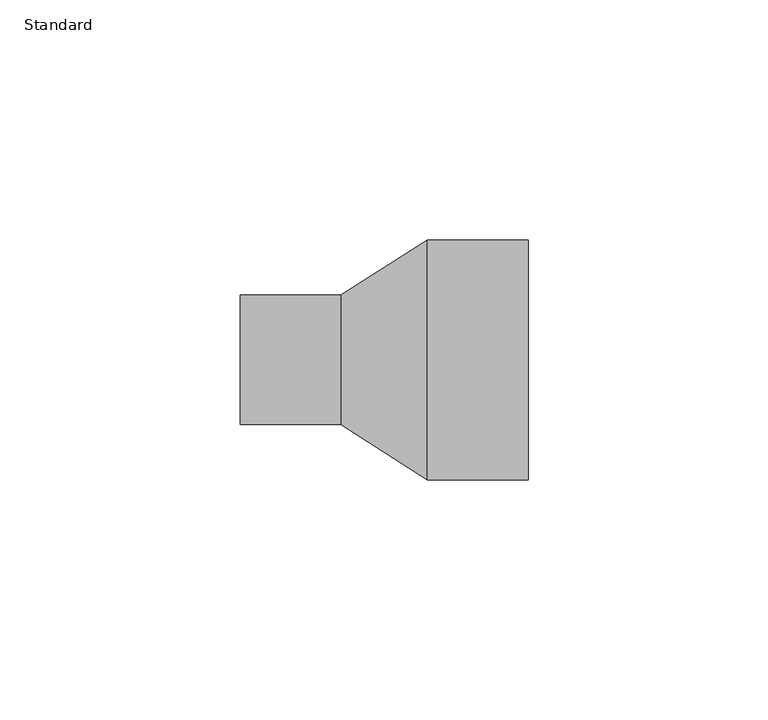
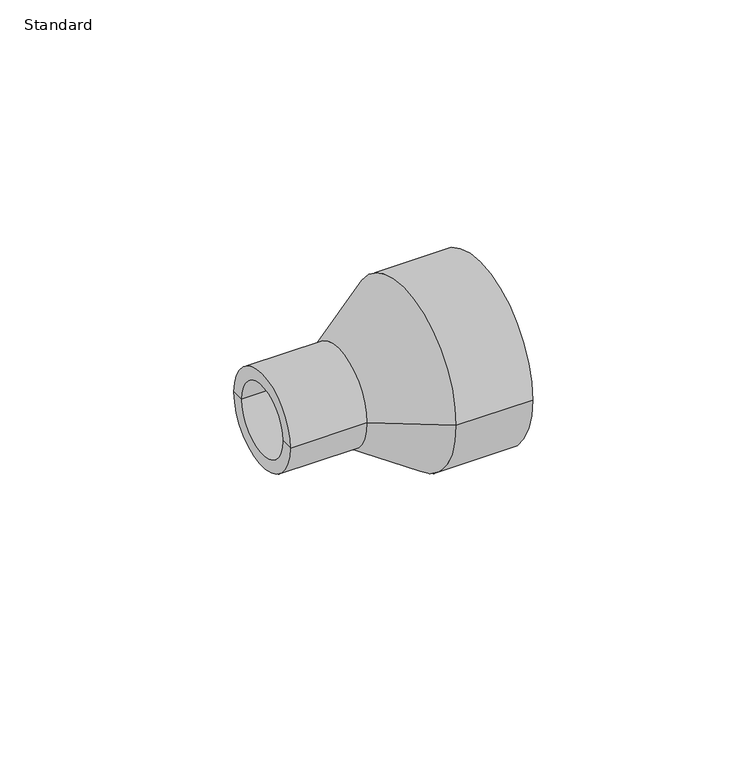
"""IFC4 building model written with IfcOpenShell, lengths in millimetres: pipe fitting geometry, Durapipe_PipeFitting_PVC_Reducers : Standard."""

from ifc_helpers import new_model, si_unit, frame, origin, place, context, project, spatial, polyline, circle_curve, source, transform, mapped, element, save
from ifc_brep_helpers import plane_surface, cylinder_surface, revolved_surface, advanced_brep


def standard_dfcddfa7(model_context):
    return source(origin(), model_context, "Body", "AdvancedBrep", [
        advanced_brep(
        [(-30.0, -13.5, 0.0), (-30.0, 13.5, 0.0), (-9.0, 13.5, 0.0), (-9.0, -13.5, 0.0), (-30.0, -10.0, 0.0), (-30.0, 10.0, 0.0), (30.0, -25.0, 0.0), (30.0, 25.0, 0.0), (30.0, 20.0, 0.0), (30.0, -20.0, 0.0), (9.0, -25.0, 0.0), (9.0, 25.0, 0.0), (-9.0, -10.0, 0.0), (-9.0, 10.0, 0.0), (-9.0, 0.0, 0.0), (9.0, -20.0, 0.0), (9.0, 20.0, 0.0), (9.0, 0.0, 0.0)],
        [
            (0, 1, circle_curve(frame((-30.0, 0.0, 0.0), z_axis=(1.0, 0.0, 0.0), x_axis=(0.0, 1.0, 0.0)), 13.5)),
            (1, 2),
            (2, 3, circle_curve(frame((-9.0, 0.0, 0.0), z_axis=(-1.0, 0.0, 0.0), x_axis=(0.0, 1.0, 0.0)), 13.5)),
            (3, 0),
            (1, 0, circle_curve(frame((-30.0, 0.0, 0.0), z_axis=(1.0, 0.0, 0.0), x_axis=(0.0, 1.0, 0.0)), 13.5)),
            (3, 2, circle_curve(frame((-9.0, 0.0, 0.0), z_axis=(-1.0, 0.0, 0.0), x_axis=(0.0, 1.0, 0.0)), 13.5)),
            (4, 5, circle_curve(frame((-30.0, 0.0, 0.0), z_axis=(1.0, 0.0, 0.0), x_axis=(0.0, 1.0, 0.0)), 10.0)),
            (5, 1),
            (0, 4),
            (5, 4, circle_curve(frame((-30.0, 0.0, 0.0), z_axis=(1.0, 0.0, 0.0), x_axis=(0.0, 1.0, 0.0)), 10.0)),
            (6, 7, circle_curve(frame((30.0, 0.0, 0.0), z_axis=(1.0, 0.0, 0.0), x_axis=(0.0, 1.0, 0.0)), 25.0)),
            (7, 8),
            (8, 9, circle_curve(frame((30.0, 0.0, 0.0), z_axis=(-1.0, 0.0, 0.0), x_axis=(0.0, 1.0, 0.0)), 20.0)),
            (9, 6),
            (7, 6, circle_curve(frame((30.0, 0.0, 0.0), z_axis=(1.0, 0.0, 0.0), x_axis=(0.0, 1.0, 0.0)), 25.0)),
            (9, 8, circle_curve(frame((30.0, 0.0, 0.0), z_axis=(-1.0, 0.0, 0.0), x_axis=(0.0, 1.0, 0.0)), 20.0)),
            (10, 11, circle_curve(frame((9.0, 0.0, 0.0), z_axis=(1.0, 0.0, 0.0), x_axis=(0.0, 1.0, 0.0)), 25.0)),
            (11, 7),
            (6, 10),
            (11, 10, circle_curve(frame((9.0, 0.0, 0.0), z_axis=(1.0, 0.0, 0.0), x_axis=(0.0, 1.0, 0.0)), 25.0)),
            (2, 11),
            (10, 3),
            (12, 13, circle_curve(frame((-9.0, 0.0, 0.0), z_axis=(1.0, 0.0, 0.0), x_axis=(0.0, 1.0, 0.0)), 10.0)),
            (13, 5),
            (4, 12),
            (13, 12, circle_curve(frame((-9.0, 0.0, 0.0), z_axis=(1.0, 0.0, 0.0), x_axis=(0.0, 1.0, 0.0)), 10.0)),
            (14, 13),
            (12, 14),
            (15, 16, circle_curve(frame((9.0, 0.0, 0.0), z_axis=(1.0, 0.0, 0.0), x_axis=(0.0, 1.0, 0.0)), 20.0)),
            (16, 17),
            (17, 15),
            (16, 15, circle_curve(frame((9.0, 0.0, 0.0), z_axis=(1.0, 0.0, 0.0), x_axis=(0.0, 1.0, 0.0)), 20.0)),
            (8, 16),
            (15, 9),
        ],
        [
            cylinder_surface(frame((-30.0, 0.0, 0.0), z_axis=(-1.0, 0.0, 0.0), x_axis=(0.0, 1.0, 0.0)), 13.5),
            plane_surface(frame((-30.0, 0.0, 0.0), z_axis=(-1.0, 0.0, 0.0), x_axis=(0.0, 1.0, 0.0))),
            plane_surface(frame((30.0, 0.0, 0.0), z_axis=(1.0, 0.0, 0.0), x_axis=(0.0, 1.0, 0.0))),
            cylinder_surface(frame((-30.0, 0.0, 0.0), z_axis=(-1.0, 0.0, 0.0), x_axis=(0.0, 1.0, 0.0)), 25.0),
            revolved_surface(polyline([(9.0, 25.0, 0.0), (-9.0, 13.5, 0.0)]), (-30.0, 0.0, 0.0), (-1.0, 0.0, 0.0)),
            revolved_surface(polyline([(-30.0, 10.0, 0.0), (-9.0, 10.0, 0.0)]), (-30.0, 0.0, 0.0), (-1.0, 0.0, 0.0)),
            plane_surface(frame((-9.0, 0.0, 0.0), z_axis=(-1.0, 0.0, 0.0), x_axis=(0.0, 1.0, 0.0))),
            plane_surface(frame((9.0, 0.0, 0.0), z_axis=(1.0, 0.0, 0.0), x_axis=(0.0, 1.0, 0.0))),
            revolved_surface(polyline([(9.0, 20.0, 0.0), (30.0, 20.0, 0.0)]), (-30.0, 0.0, 0.0), (-1.0, 0.0, 0.0)),
        ],
        [
            (0, [[1, 2, 3, 4]]),
            (0, [[5, -4, 6, -2]]),
            (1, [[7, 8, -1, 9]]),
            (1, [[10, -9, -5, -8]]),
            (2, [[11, 12, 13, 14]]),
            (2, [[15, -14, 16, -12]]),
            (3, [[17, 18, -11, 19]]),
            (3, [[20, -19, -15, -18]]),
            (4, [[-3, 21, -17, 22]]),
            (4, [[-6, -22, -20, -21]]),
            (5, [[23, 24, -7, 25]]),
            (5, [[26, -25, -10, -24]]),
            (6, [[27, -23, 28]]),
            (6, [[-28, -26, -27]]),
            (7, [[29, 30, 31]]),
            (7, [[32, -31, -30]]),
            (8, [[-13, 33, -29, 34]]),
            (8, [[-16, -34, -32, -33]]),
        ],
    ),
    ])


if __name__ == "__main__":
    model = new_model("IFC4")
    model_context = context("Model", 3, world=origin())
    ifc_project = project(units=[si_unit("LENGTHUNIT", "METRE", prefix="MILLI")], contexts=[model_context])
    site = spatial("IfcSite", under=ifc_project)
    building = spatial("IfcBuilding", under=site)
    placement = place(None, origin())
    standard_shape = standard_dfcddfa7(model_context)
    element("IfcPipeFitting", 1, ObjectType="Durapipe_PipeFitting_PVC_Reducers : Standard", at=placement, inside=building, context=model_context, shape_type="MappedRepresentation", body=[
        mapped(standard_shape, transform((0.0, 0.0, 0.0), x_axis=(1.0, 0.0, 0.0), y_axis=(0.0, 1.0, 0.0), z_axis=(0.0, 0.0, 1.0))),
    ])
    save(model, "model.ifc")
